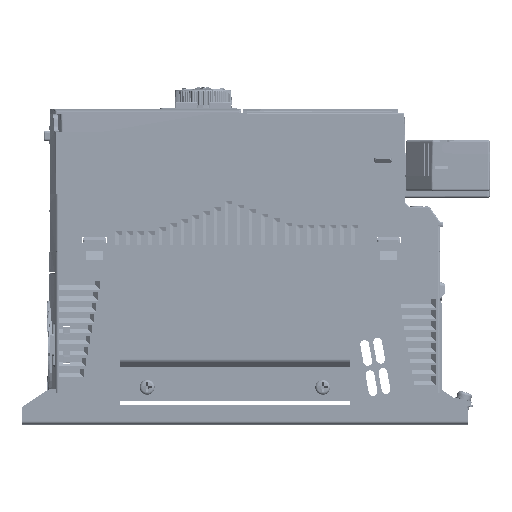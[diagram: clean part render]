
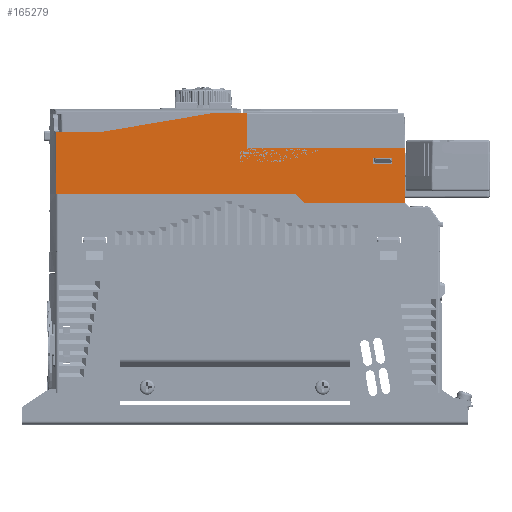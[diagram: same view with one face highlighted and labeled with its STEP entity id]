
A CAD part, top view. The second image highlights one B-rep face of the part: STEP entity #165279.
In plain terms, the highlighted planar face has unit normal (0, 0, 1) as drawn and (1, 0, 0) by its records, which use the part's own axes.
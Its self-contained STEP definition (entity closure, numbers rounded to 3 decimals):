
#159457=DIRECTION('',(0.,0.168,-0.986));
#159458=VECTOR('',#159457,50.717);
#159459=CARTESIAN_POINT('',(37.,32.5,56.2));
#159460=LINE('',#159459,#159458);
#159461=DIRECTION('',(0.,0.,-1.));
#159462=VECTOR('',#159461,72.2);
#159463=CARTESIAN_POINT('',(37.,25.,-8.8));
#159464=LINE('',#159463,#159462);
#159465=DIRECTION('',(0.,-1.,0.));
#159466=VECTOR('',#159465,25.);
#159467=CARTESIAN_POINT('',(37.,25.,-81.));
#159468=LINE('',#159467,#159466);
#159469=DIRECTION('',(0.,0.,1.));
#159470=VECTOR('',#159469,46.);
#159471=CARTESIAN_POINT('',(37.,0.,-81.));
#159472=LINE('',#159471,#159470);
#159473=DIRECTION('',(0.,0.707,0.707));
#159474=VECTOR('',#159473,5.657);
#159475=CARTESIAN_POINT('',(37.,0.,-35.));
#159476=LINE('',#159475,#159474);
#159477=DIRECTION('',(0.,0.,1.));
#159478=VECTOR('',#159477,109.);
#159479=CARTESIAN_POINT('',(37.,4.,-31.));
#159480=LINE('',#159479,#159478);
#159481=DIRECTION('',(0.,0.,-1.));
#159482=VECTOR('',#159481,8.5);
#159483=CARTESIAN_POINT('',(37.,17.5,-66.5));
#159484=LINE('',#159483,#159482);
#159485=DIRECTION('',(0.,1.,0.));
#159486=VECTOR('',#159485,3.);
#159487=CARTESIAN_POINT('',(37.,17.5,-75.));
#159488=LINE('',#159487,#159486);
#159489=DIRECTION('',(0.,0.,1.));
#159490=VECTOR('',#159489,8.5);
#159491=CARTESIAN_POINT('',(37.,20.5,-75.));
#159492=LINE('',#159491,#159490);
#159493=DIRECTION('',(0.,-1.,0.));
#159494=VECTOR('',#159493,3.);
#159495=CARTESIAN_POINT('',(37.,20.5,-66.5));
#159496=LINE('',#159495,#159494);
#159506=DIRECTION('',(0.,0.,1.));
#159507=VECTOR('',#159506,21.8);
#159508=CARTESIAN_POINT('',(37.,32.5,56.2));
#159509=LINE('',#159508,#159507);
#159585=DIRECTION('',(0.,-1.,0.));
#159586=VECTOR('',#159585,28.5);
#159587=CARTESIAN_POINT('',(37.,32.5,78.));
#159588=LINE('',#159587,#159586);
#159809=DIRECTION('',(0.,1.,0.));
#159810=VECTOR('',#159809,16.);
#159811=CARTESIAN_POINT('',(37.,25.,-8.8));
#159812=LINE('',#159811,#159810);
#160783=DIRECTION('',(0.,0.,1.));
#160784=VECTOR('',#160783,15.);
#160785=CARTESIAN_POINT('',(37.,41.,-8.8));
#160786=LINE('',#160785,#160784);
#162961=CARTESIAN_POINT('',(37.,0.,-35.));
#162962=VERTEX_POINT('',#162961);
#162963=CARTESIAN_POINT('',(37.,0.,-81.));
#162964=VERTEX_POINT('',#162963);
#163215=CARTESIAN_POINT('',(37.,25.,-81.));
#163216=VERTEX_POINT('',#163215);
#163219=CARTESIAN_POINT('',(37.,32.5,56.2));
#163220=CARTESIAN_POINT('',(37.,41.,6.2));
#163221=VERTEX_POINT('',#163219);
#163222=VERTEX_POINT('',#163220);
#163223=CARTESIAN_POINT('',(37.,41.,-8.8));
#163224=VERTEX_POINT('',#163223);
#163225=CARTESIAN_POINT('',(37.,25.,-8.8));
#163226=VERTEX_POINT('',#163225);
#163227=CARTESIAN_POINT('',(37.,4.,-31.));
#163228=VERTEX_POINT('',#163227);
#163229=CARTESIAN_POINT('',(37.,4.,78.));
#163230=VERTEX_POINT('',#163229);
#163231=CARTESIAN_POINT('',(37.,32.5,78.));
#163232=VERTEX_POINT('',#163231);
#163233=CARTESIAN_POINT('',(37.,17.5,-66.5));
#163234=CARTESIAN_POINT('',(37.,17.5,-75.));
#163235=VERTEX_POINT('',#163233);
#163236=VERTEX_POINT('',#163234);
#163237=CARTESIAN_POINT('',(37.,20.5,-75.));
#163238=VERTEX_POINT('',#163237);
#163239=CARTESIAN_POINT('',(37.,20.5,-66.5));
#163240=VERTEX_POINT('',#163239);
#165244=CARTESIAN_POINT('',(37.,0.,81.));
#165245=DIRECTION('',(1.,0.,0.));
#165246=DIRECTION('',(0.,0.,-1.));
#165247=AXIS2_PLACEMENT_3D('',#165244,#165245,#165246);
#165248=PLANE('',#165247);
#165250=ORIENTED_EDGE('',*,*,#165249,.T.);
#165252=ORIENTED_EDGE('',*,*,#165251,.F.);
#165254=ORIENTED_EDGE('',*,*,#165253,.F.);
#165256=ORIENTED_EDGE('',*,*,#165255,.T.);
#165257=ORIENTED_EDGE('',*,*,#165224,.T.);
#165258=ORIENTED_EDGE('',*,*,#164220,.T.);
#165260=ORIENTED_EDGE('',*,*,#165259,.T.);
#165262=ORIENTED_EDGE('',*,*,#165261,.T.);
#165264=ORIENTED_EDGE('',*,*,#165263,.F.);
#165266=ORIENTED_EDGE('',*,*,#165265,.F.);
#165267=EDGE_LOOP('',(#165250,#165252,#165254,#165256,#165257,#165258,#165260,
#165262,#165264,#165266));
#165268=FACE_OUTER_BOUND('',#165267,.F.);
#165270=ORIENTED_EDGE('',*,*,#165269,.T.);
#165272=ORIENTED_EDGE('',*,*,#165271,.T.);
#165274=ORIENTED_EDGE('',*,*,#165273,.T.);
#165276=ORIENTED_EDGE('',*,*,#165275,.T.);
#165277=EDGE_LOOP('',(#165270,#165272,#165274,#165276));
#165278=FACE_BOUND('',#165277,.F.);
#164220=EDGE_CURVE('',#162964,#162962,#159472,.T.);
#165224=EDGE_CURVE('',#163216,#162964,#159468,.T.);
#165249=EDGE_CURVE('',#163221,#163222,#159460,.T.);
#165251=EDGE_CURVE('',#163224,#163222,#160786,.T.);
#165253=EDGE_CURVE('',#163226,#163224,#159812,.T.);
#165255=EDGE_CURVE('',#163226,#163216,#159464,.T.);
#165259=EDGE_CURVE('',#162962,#163228,#159476,.T.);
#165261=EDGE_CURVE('',#163228,#163230,#159480,.T.);
#165263=EDGE_CURVE('',#163232,#163230,#159588,.T.);
#165265=EDGE_CURVE('',#163221,#163232,#159509,.T.);
#165269=EDGE_CURVE('',#163235,#163236,#159484,.T.);
#165271=EDGE_CURVE('',#163236,#163238,#159488,.T.);
#165273=EDGE_CURVE('',#163238,#163240,#159492,.T.);
#165275=EDGE_CURVE('',#163240,#163235,#159496,.T.);
#165279=ADVANCED_FACE('',(#165268,#165278),#165248,.T.);
